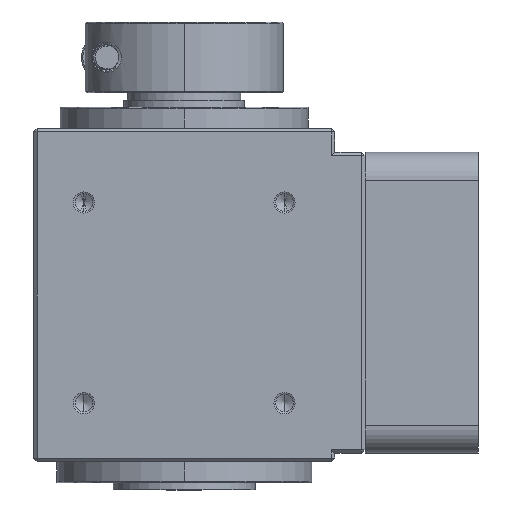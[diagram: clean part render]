
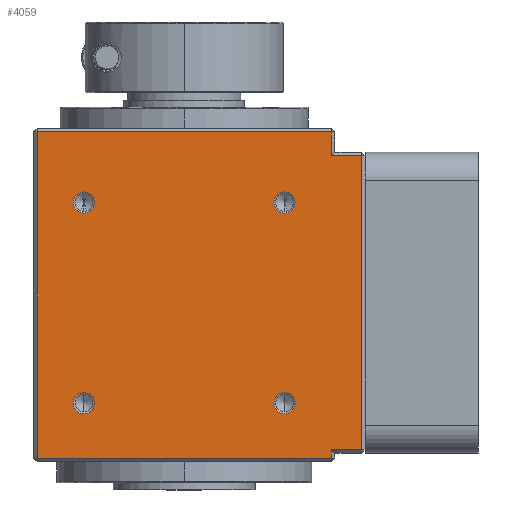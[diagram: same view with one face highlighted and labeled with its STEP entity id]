
A CAD part, left-side view. The second image highlights one B-rep face of the part: STEP entity #4059.
In plain terms, the highlighted planar face has unit normal (-1, 0, 0) as drawn and (1, 0, 0) by its records, which use the part's own axes.
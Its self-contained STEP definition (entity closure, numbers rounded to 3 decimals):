
#428 = CIRCLE ( 'NONE', #11480, 1.5 ) ;
#671 = DIRECTION ( 'NONE',  ( 0., 0., -1. ) ) ;
#708 = LINE ( 'NONE', #8835, #36023 ) ;
#1779 = PLANE ( 'NONE',  #32363 ) ;
#1806 = CARTESIAN_POINT ( 'NONE',  ( 21.25, -20.75, 53. ) ) ;
#2376 = VERTEX_POINT ( 'NONE', #32966 ) ;
#2678 = CARTESIAN_POINT ( 'NONE',  ( 21.25, -21.25, 49.5 ) ) ;
#3147 = AXIS2_PLACEMENT_3D ( 'NONE', #37729, #9791, #24170 ) ;
#3711 = VECTOR ( 'NONE', #671, 1000. ) ;
#3885 = VECTOR ( 'NONE', #25461, 1000. ) ;
#4059 = ADVANCED_FACE ( 'NONE', ( #10407, #36945, #33631, #8215, #35836 ), #1779, .F. ) ;
#4085 = EDGE_CURVE ( 'NONE', #13622, #25234, #20943, .T. ) ;
#4285 = VERTEX_POINT ( 'NONE', #29247 ) ;
#5123 = ORIENTED_EDGE ( 'NONE', *, *, #43542, .T. ) ;
#5558 = ORIENTED_EDGE ( 'NONE', *, *, #41270, .T. ) ;
#5584 = VECTOR ( 'NONE', #13302, 1000. ) ;
#5939 = VERTEX_POINT ( 'NONE', #38031 ) ;
#6570 = CARTESIAN_POINT ( 'NONE',  ( 21.25, -25., 6.85 ) ) ;
#6654 = ORIENTED_EDGE ( 'NONE', *, *, #7698, .F. ) ;
#7698 = EDGE_CURVE ( 'NONE', #11435, #2376, #17434, .T. ) ;
#7834 = DIRECTION ( 'NONE',  ( 1., 0., 0. ) ) ;
#8123 = CARTESIAN_POINT ( 'NONE',  ( 21.25, 20.75, 53. ) ) ;
#8215 = FACE_BOUND ( 'NONE', #29803, .T. ) ;
#8353 = LINE ( 'NONE', #1806, #20499 ) ;
#8746 = ORIENTED_EDGE ( 'NONE', *, *, #35455, .F. ) ;
#8809 = CARTESIAN_POINT ( 'NONE',  ( 21.25, -14.142, 11.958 ) ) ;
#8835 = CARTESIAN_POINT ( 'NONE',  ( 21.25, 21.25, 3.5 ) ) ;
#8867 = CARTESIAN_POINT ( 'NONE',  ( 21.25, -21.25, 53. ) ) ;
#9791 = DIRECTION ( 'NONE',  ( 1., 0., 0. ) ) ;
#10098 = DIRECTION ( 'NONE',  ( 0., 1., 0. ) ) ;
#10106 = ORIENTED_EDGE ( 'NONE', *, *, #12209, .T. ) ;
#10407 = FACE_OUTER_BOUND ( 'NONE', #22961, .T. ) ;
#11435 = VERTEX_POINT ( 'NONE', #26476 ) ;
#11480 = AXIS2_PLACEMENT_3D ( 'NONE', #16157, #44159, #19862 ) ;
#12060 = VERTEX_POINT ( 'NONE', #28756 ) ;
#12094 = VECTOR ( 'NONE', #25899, 1000. ) ;
#12209 = EDGE_CURVE ( 'NONE', #38328, #23828, #15675, .T. ) ;
#12353 = CARTESIAN_POINT ( 'NONE',  ( 21.25, -20.75, 48.35 ) ) ;
#12631 = EDGE_CURVE ( 'NONE', #4285, #39499, #708, .T. ) ;
#12891 = CIRCLE ( 'NONE', #27808, 1.5 ) ;
#13302 = DIRECTION ( 'NONE',  ( 0., -1., 0. ) ) ;
#13622 = VERTEX_POINT ( 'NONE', #21480 ) ;
#13743 = VERTEX_POINT ( 'NONE', #35351 ) ;
#13764 = AXIS2_PLACEMENT_3D ( 'NONE', #29319, #25189, #39841 ) ;
#13867 = EDGE_CURVE ( 'NONE', #5939, #18653, #37098, .T. ) ;
#14051 = EDGE_CURVE ( 'NONE', #13743, #31512, #15008, .T. ) ;
#14865 = CARTESIAN_POINT ( 'NONE',  ( 21.25, -25.5, 48.35 ) ) ;
#15008 = CIRCLE ( 'NONE', #32429, 1.5 ) ;
#15675 = LINE ( 'NONE', #14865, #34973 ) ;
#15975 = DIRECTION ( 'NONE',  ( 0., 0., 1. ) ) ;
#16157 = CARTESIAN_POINT ( 'NONE',  ( 21.25, 14.142, 13.458 ) ) ;
#17434 = CIRCLE ( 'NONE', #42564, 1.5 ) ;
#18144 = DIRECTION ( 'NONE',  ( 0., 0., -1. ) ) ;
#18653 = VERTEX_POINT ( 'NONE', #32584 ) ;
#19376 = DIRECTION ( 'NONE',  ( 0., 0., -1. ) ) ;
#19616 = EDGE_CURVE ( 'NONE', #22605, #12060, #33468, .T. ) ;
#19844 = CARTESIAN_POINT ( 'NONE',  ( 21.25, -14.142, 13.458 ) ) ;
#19862 = DIRECTION ( 'NONE',  ( 0., 0., -1. ) ) ;
#20499 = VECTOR ( 'NONE', #44456, 1000. ) ;
#20943 = CIRCLE ( 'NONE', #34733, 1.5 ) ;
#21480 = CARTESIAN_POINT ( 'NONE',  ( 21.25, -14.142, 14.958 ) ) ;
#21529 = LINE ( 'NONE', #8123, #12094 ) ;
#21592 = CARTESIAN_POINT ( 'NONE',  ( 21.25, -25., 53. ) ) ;
#21613 = LINE ( 'NONE', #2678, #5584 ) ;
#21832 = CARTESIAN_POINT ( 'NONE',  ( 21.25, -25., 48.35 ) ) ;
#21881 = DIRECTION ( 'NONE',  ( 0., 0., -1. ) ) ;
#22152 = DIRECTION ( 'NONE',  ( 1., 0., 0. ) ) ;
#22605 = VERTEX_POINT ( 'NONE', #6570 ) ;
#22790 = ORIENTED_EDGE ( 'NONE', *, *, #19616, .T. ) ;
#22878 = ORIENTED_EDGE ( 'NONE', *, *, #44836, .T. ) ;
#22961 = EDGE_LOOP ( 'NONE', ( #43577, #22790, #33556, #28712, #22878, #5123, #5558, #10106 ) ) ;
#23144 = ORIENTED_EDGE ( 'NONE', *, *, #35079, .F. ) ;
#23828 = VERTEX_POINT ( 'NONE', #21832 ) ;
#24131 = LINE ( 'NONE', #32295, #3711 ) ;
#24170 = DIRECTION ( 'NONE',  ( 0., 0., -1. ) ) ;
#24857 = CARTESIAN_POINT ( 'NONE',  ( 21.25, 20.75, 49.5 ) ) ;
#25189 = DIRECTION ( 'NONE',  ( 1., 0., 0. ) ) ;
#25234 = VERTEX_POINT ( 'NONE', #8809 ) ;
#25454 = DIRECTION ( 'NONE',  ( 1., 0., 0. ) ) ;
#25461 = DIRECTION ( 'NONE',  ( 0., 0., -1. ) ) ;
#25899 = DIRECTION ( 'NONE',  ( 0., 0., 1. ) ) ;
#26476 = CARTESIAN_POINT ( 'NONE',  ( 21.25, 14.142, 43.242 ) ) ;
#27808 = AXIS2_PLACEMENT_3D ( 'NONE', #19844, #41163, #19376 ) ;
#28712 = ORIENTED_EDGE ( 'NONE', *, *, #12631, .T. ) ;
#28756 = CARTESIAN_POINT ( 'NONE',  ( 21.25, -20.75, 6.85 ) ) ;
#28826 = CARTESIAN_POINT ( 'NONE',  ( 21.25, 14.142, 41.742 ) ) ;
#29067 = DIRECTION ( 'NONE',  ( 0., -1., 0. ) ) ;
#29247 = CARTESIAN_POINT ( 'NONE',  ( 21.25, -20.75, 3.5 ) ) ;
#29252 = CARTESIAN_POINT ( 'NONE',  ( 21.25, -20.75, 49.5 ) ) ;
#29319 = CARTESIAN_POINT ( 'NONE',  ( 21.25, 14.142, 13.458 ) ) ;
#29803 = EDGE_LOOP ( 'NONE', ( #23144, #6654 ) ) ;
#30452 = ORIENTED_EDGE ( 'NONE', *, *, #4085, .F. ) ;
#30616 = EDGE_LOOP ( 'NONE', ( #40467, #34240 ) ) ;
#30880 = EDGE_LOOP ( 'NONE', ( #34965, #30452 ) ) ;
#31385 = CIRCLE ( 'NONE', #38081, 1.5 ) ;
#31423 = CARTESIAN_POINT ( 'NONE',  ( 21.25, -21.25, 6.85 ) ) ;
#31512 = VERTEX_POINT ( 'NONE', #41786 ) ;
#31519 = EDGE_CURVE ( 'NONE', #31512, #13743, #41572, .T. ) ;
#31651 = DIRECTION ( 'NONE',  ( 1., 0., 0. ) ) ;
#32295 = CARTESIAN_POINT ( 'NONE',  ( 21.25, -20.75, 53. ) ) ;
#32363 = AXIS2_PLACEMENT_3D ( 'NONE', #8867, #44278, #15975 ) ;
#32429 = AXIS2_PLACEMENT_3D ( 'NONE', #43656, #22152, #36772 ) ;
#32584 = CARTESIAN_POINT ( 'NONE',  ( 21.25, 14.142, 11.958 ) ) ;
#32966 = CARTESIAN_POINT ( 'NONE',  ( 21.25, 14.142, 40.242 ) ) ;
#33046 = CARTESIAN_POINT ( 'NONE',  ( 21.25, 20.75, 3.5 ) ) ;
#33468 = LINE ( 'NONE', #31423, #44047 ) ;
#33555 = CARTESIAN_POINT ( 'NONE',  ( 21.25, -14.142, 13.458 ) ) ;
#33556 = ORIENTED_EDGE ( 'NONE', *, *, #35819, .T. ) ;
#33631 = FACE_BOUND ( 'NONE', #30616, .T. ) ;
#34240 = ORIENTED_EDGE ( 'NONE', *, *, #14051, .F. ) ;
#34341 = EDGE_LOOP ( 'NONE', ( #8746, #36404 ) ) ;
#34733 = AXIS2_PLACEMENT_3D ( 'NONE', #33555, #31651, #38586 ) ;
#34965 = ORIENTED_EDGE ( 'NONE', *, *, #39160, .F. ) ;
#34973 = VECTOR ( 'NONE', #29067, 1000. ) ;
#35079 = EDGE_CURVE ( 'NONE', #2376, #11435, #31385, .T. ) ;
#35351 = CARTESIAN_POINT ( 'NONE',  ( 21.25, -14.142, 43.242 ) ) ;
#35455 = EDGE_CURVE ( 'NONE', #18653, #5939, #428, .T. ) ;
#35464 = CARTESIAN_POINT ( 'NONE',  ( 21.25, 14.142, 41.742 ) ) ;
#35819 = EDGE_CURVE ( 'NONE', #12060, #4285, #24131, .T. ) ;
#35836 = FACE_BOUND ( 'NONE', #34341, .T. ) ;
#36023 = VECTOR ( 'NONE', #37222, 1000. ) ;
#36404 = ORIENTED_EDGE ( 'NONE', *, *, #13867, .F. ) ;
#36504 = VERTEX_POINT ( 'NONE', #29252 ) ;
#36772 = DIRECTION ( 'NONE',  ( 0., 0., -1. ) ) ;
#36945 = FACE_BOUND ( 'NONE', #30880, .T. ) ;
#37098 = CIRCLE ( 'NONE', #13764, 1.5 ) ;
#37222 = DIRECTION ( 'NONE',  ( 0., 1., 0. ) ) ;
#37729 = CARTESIAN_POINT ( 'NONE',  ( 21.25, -14.142, 41.742 ) ) ;
#38031 = CARTESIAN_POINT ( 'NONE',  ( 21.25, 14.142, 14.958 ) ) ;
#38081 = AXIS2_PLACEMENT_3D ( 'NONE', #35464, #7834, #21881 ) ;
#38328 = VERTEX_POINT ( 'NONE', #12353 ) ;
#38586 = DIRECTION ( 'NONE',  ( 0., 0., -1. ) ) ;
#39160 = EDGE_CURVE ( 'NONE', #25234, #13622, #12891, .T. ) ;
#39499 = VERTEX_POINT ( 'NONE', #33046 ) ;
#39841 = DIRECTION ( 'NONE',  ( 0., 0., -1. ) ) ;
#40467 = ORIENTED_EDGE ( 'NONE', *, *, #31519, .F. ) ;
#40803 = VERTEX_POINT ( 'NONE', #24857 ) ;
#41163 = DIRECTION ( 'NONE',  ( 1., 0., 0. ) ) ;
#41270 = EDGE_CURVE ( 'NONE', #36504, #38328, #8353, .T. ) ;
#41572 = CIRCLE ( 'NONE', #3147, 1.5 ) ;
#41786 = CARTESIAN_POINT ( 'NONE',  ( 21.25, -14.142, 40.242 ) ) ;
#42564 = AXIS2_PLACEMENT_3D ( 'NONE', #28826, #25454, #18144 ) ;
#42659 = EDGE_CURVE ( 'NONE', #23828, #22605, #44234, .T. ) ;
#43542 = EDGE_CURVE ( 'NONE', #40803, #36504, #21613, .T. ) ;
#43577 = ORIENTED_EDGE ( 'NONE', *, *, #42659, .T. ) ;
#43656 = CARTESIAN_POINT ( 'NONE',  ( 21.25, -14.142, 41.742 ) ) ;
#44047 = VECTOR ( 'NONE', #10098, 1000. ) ;
#44159 = DIRECTION ( 'NONE',  ( 1., 0., 0. ) ) ;
#44234 = LINE ( 'NONE', #21592, #3885 ) ;
#44278 = DIRECTION ( 'NONE',  ( -1., 0., 0. ) ) ;
#44456 = DIRECTION ( 'NONE',  ( 0., 0., -1. ) ) ;
#44836 = EDGE_CURVE ( 'NONE', #39499, #40803, #21529, .T. ) ;
